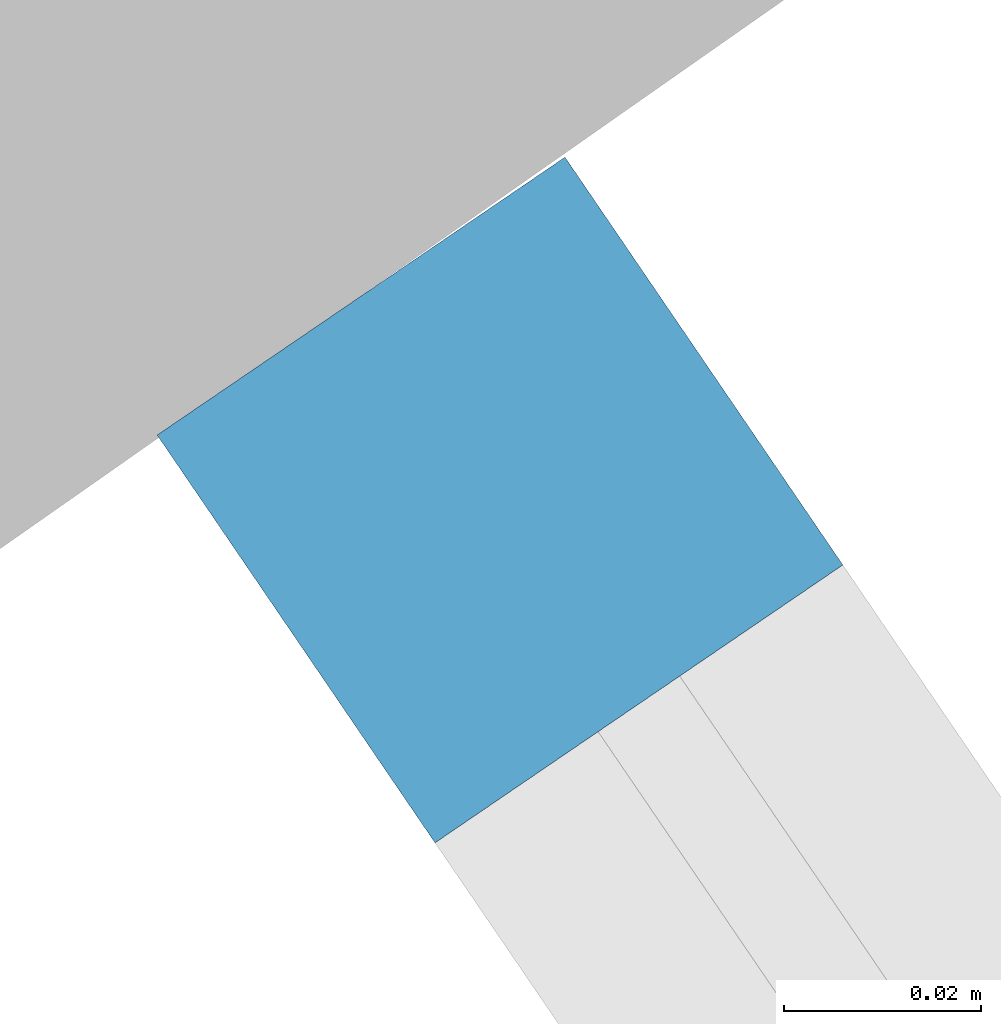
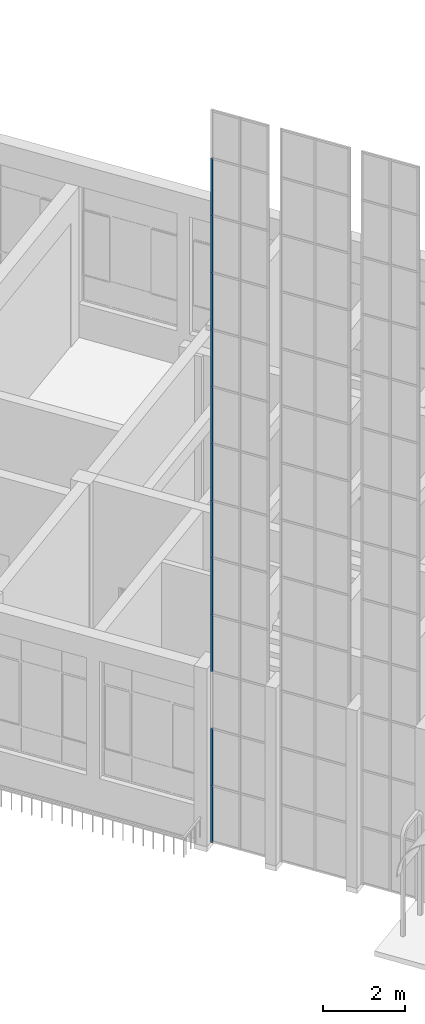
# One storey, part 19 of 157: 11 members, 1 element without a shape of its own.
"""IFC2X3 building model written with IfcOpenShell, lengths in millimetres."""

from ifc_helpers import new_model, entity, si_unit, converted_unit, derived_unit, direction, frame, origin, origin_2d_with_axis, place, context, subcontext, project, spatial, rectangle, extrude, source, transform, mapped, material, type_object, type_shapes, element, aggregate, save


model = new_model("IFC2X3")

# Units and contexts
model_context = context("Model", 3, precision=0.01, world=origin(), true_north=direction((6.123031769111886e-17, 1.0)))
body_context = subcontext(model_context, "Body", "Model", "MODEL_VIEW")
ifc_project = project(units=[si_unit("LENGTHUNIT", "METRE", prefix="MILLI"), si_unit("AREAUNIT", "SQUARE_METRE"), si_unit("VOLUMEUNIT", "CUBIC_METRE"), converted_unit("PLANEANGLEUNIT", "DEGREE", entity("IfcRatioMeasure", 0.017453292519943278), si_unit("PLANEANGLEUNIT", "RADIAN"), dimensions=[0, 0, 0, 0, 0, 0, 0]), si_unit("MASSUNIT", "GRAM", prefix="KILO"), derived_unit("MASSDENSITYUNIT", [(si_unit("MASSUNIT", "GRAM", prefix="KILO"), 1), (si_unit("LENGTHUNIT", "METRE"), -3)]), derived_unit("MOMENTOFINERTIAUNIT", [(si_unit("LENGTHUNIT", "METRE"), 4)]), si_unit("TIMEUNIT", "SECOND"), si_unit("FREQUENCYUNIT", "HERTZ"), si_unit("THERMODYNAMICTEMPERATUREUNIT", "DEGREE_CELSIUS"), derived_unit("THERMALTRANSMITTANCEUNIT", [(si_unit("MASSUNIT", "GRAM", prefix="KILO"), 1), (si_unit("THERMODYNAMICTEMPERATUREUNIT", "KELVIN"), -1), (si_unit("TIMEUNIT", "SECOND"), -3)]), derived_unit("THERMALCONDUCTANCEUNIT", [(si_unit("MASSUNIT", "GRAM", prefix="KILO"), 1), (si_unit("LENGTHUNIT", "METRE"), 1), (si_unit("THERMODYNAMICTEMPERATUREUNIT", "KELVIN"), -1), (si_unit("TIMEUNIT", "SECOND"), -3)]), derived_unit("VOLUMETRICFLOWRATEUNIT", [(si_unit("LENGTHUNIT", "METRE"), 3), (si_unit("TIMEUNIT", "SECOND"), -1)]), derived_unit("MASSFLOWRATEUNIT", [(si_unit("MASSUNIT", "GRAM", prefix="KILO"), 1), (si_unit("TIMEUNIT", "SECOND"), -1)]), derived_unit("ROTATIONALFREQUENCYUNIT", [(si_unit("TIMEUNIT", "SECOND"), -1)]), si_unit("ELECTRICCURRENTUNIT", "AMPERE"), si_unit("ELECTRICVOLTAGEUNIT", "VOLT"), si_unit("POWERUNIT", "WATT"), converted_unit("FORCEUNIT", "KIP", entity("IfcRatioMeasure", 2.088543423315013e-05), si_unit("FORCEUNIT", "NEWTON"), dimensions=[1, 1, -2, 0, 0, 0, 0]), si_unit("ILLUMINANCEUNIT", "LUX"), si_unit("LUMINOUSFLUXUNIT", "LUMEN"), si_unit("LUMINOUSINTENSITYUNIT", "CANDELA"), derived_unit("USERDEFINED", [(si_unit("MASSUNIT", "GRAM", prefix="KILO"), -1), (si_unit("LENGTHUNIT", "METRE"), -2), (si_unit("TIMEUNIT", "SECOND"), 3), (si_unit("LUMINOUSFLUXUNIT", "LUMEN"), 1)]), derived_unit("USERDEFINED", [(si_unit("MASSUNIT", "GRAM", prefix="KILO"), 1), (si_unit("LENGTHUNIT", "METRE"), 3), (si_unit("TIMEUNIT", "SECOND"), -3), (si_unit("ELECTRICCURRENTUNIT", "AMPERE"), -2)]), derived_unit("USERDEFINED", [(si_unit("LENGTHUNIT", "METRE"), 2), (si_unit("TIMEUNIT", "SECOND"), -2)]), derived_unit("SOUNDPOWERUNIT", [(si_unit("MASSUNIT", "GRAM", prefix="KILO"), 1), (si_unit("LENGTHUNIT", "METRE"), 2), (si_unit("TIMEUNIT", "SECOND"), -3)]), derived_unit("SOUNDPRESSUREUNIT", [(si_unit("MASSUNIT", "GRAM", prefix="KILO"), 1), (si_unit("LENGTHUNIT", "METRE"), -1), (si_unit("TIMEUNIT", "SECOND"), -2)]), derived_unit("LINEARVELOCITYUNIT", [(si_unit("LENGTHUNIT", "METRE"), 1), (si_unit("TIMEUNIT", "SECOND"), -1)]), si_unit("PRESSUREUNIT", "PASCAL"), derived_unit("USERDEFINED", [(si_unit("LENGTHUNIT", "METRE"), -2), (si_unit("MASSUNIT", "GRAM", prefix="KILO"), 1), (si_unit("TIMEUNIT", "SECOND"), -2)]), derived_unit("LINEARFORCEUNIT", [(si_unit("MASSUNIT", "GRAM", prefix="KILO"), 1), (si_unit("LENGTHUNIT", "METRE"), 1), (si_unit("TIMEUNIT", "SECOND"), -2), (si_unit("LENGTHUNIT", "METRE"), -1)]), derived_unit("PLANARFORCEUNIT", [(si_unit("MASSUNIT", "GRAM", prefix="KILO"), 1), (si_unit("LENGTHUNIT", "METRE"), 1), (si_unit("TIMEUNIT", "SECOND"), -2), (si_unit("LENGTHUNIT", "METRE"), -2)]), derived_unit("SPECIFICHEATCAPACITYUNIT", [(si_unit("LENGTHUNIT", "METRE"), 2), (si_unit("TIMEUNIT", "SECOND"), -2), (si_unit("THERMODYNAMICTEMPERATUREUNIT", "KELVIN"), -1)]), derived_unit("VAPORPERMEABILITYUNIT", [(si_unit("TIMEUNIT", "SECOND"), 1), (si_unit("LENGTHUNIT", "METRE"), -1)]), derived_unit("DYNAMICVISCOSITYUNIT", [(si_unit("MASSUNIT", "GRAM", prefix="KILO"), 1), (si_unit("LENGTHUNIT", "METRE"), -1), (si_unit("TIMEUNIT", "SECOND"), -1)]), derived_unit("THERMALEXPANSIONCOEFFICIENTUNIT", [(si_unit("THERMODYNAMICTEMPERATUREUNIT", "KELVIN"), -1)])], contexts=[model_context])

# Site, building, storey
site_placement = place(None, frame((0.0, 0.0, 0.0), z_axis=(0.0, 0.0, 1.0), x_axis=(0.8191520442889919, 0.5735764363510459, 0.0)))
site = spatial("IfcSite", under=ifc_project, at=site_placement, Name="Default", CompositionType="ELEMENT")
building_placement = place(site_placement, origin())
building = spatial("IfcBuilding", under=site, at=building_placement, CompositionType="ELEMENT")
storey_placement = place(building_placement, origin())
storey = spatial("IfcBuildingStorey", under=building, at=storey_placement, Name="1.EG +0.00", CompositionType="ELEMENT", Elevation=-4.331468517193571e-12)

# Curtain wall, members
curtain_wall_type = type_object("IfcCurtainWallType", Name="Curtain Wall:Curtain_Wall_CJC", PredefinedType="NOTDEFINED")
curtain_wall_placement = place(storey_placement, origin())
curtain_wall = element("IfcCurtainWall", 1, at=curtain_wall_placement, inside=storey, type_object=curtain_wall_type, Name="Curtain Wall:Curtain_Wall_CJC", ObjectType="Curtain Wall:Curtain_Wall_CJC")
ifc_material = material(Name="Aluminium")
member_type_1 = type_object("IfcMemberType", Name="Rectangular Mullion:5x5", PredefinedType="MULLION", material=ifc_material)
shared_shape_1 = source(origin(), body_context, "Body", "SweptSolid", [
    extrude(rectangle(XDim=50.0, YDim=50.0, at=origin_2d_with_axis()), frame((-25.0, 0.0, -1700.0), z_axis=(0.0, 0.0, 1.0), x_axis=(0.0, -1.0, 0.0)), (0.0, 0.0, 1.0), 1700.0),
])
type_shapes(member_type_1, [shared_shape_1])
member_1_placement = place(curtain_wall_placement, frame((-223050.52008220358, 115521.3589143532, 1700.0), z_axis=(0.0, 0.0, -1.0), x_axis=(0.01272958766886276, 0.999918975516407, 0.0)))
member_1 = element("IfcMember", 2, at=member_1_placement, type_object=member_type_1, material=ifc_material, Name="Rectangular Mullion:5x5", ObjectType="Rectangular Mullion:5x5", context=body_context, shape_type="MappedRepresentation", body=[
    mapped(shared_shape_1, transform((0.0, 0.0, 0.0), scale=1.0)),
])
member_2_placement = place(curtain_wall_placement, frame((-223050.52008220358, 115521.3589143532, 5100.0), z_axis=(0.0, 0.0, -1.0), x_axis=(0.01272958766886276, 0.999918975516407, 0.0)))
member_2 = element("IfcMember", 3, at=member_2_placement, type_object=member_type_1, material=ifc_material, Name="Rectangular Mullion:5x5", ObjectType="Rectangular Mullion:5x5", context=body_context, shape_type="MappedRepresentation", body=[
    mapped(shared_shape_1, transform((0.0, 0.0, 0.0), scale=1.0)),
])
member_3_placement = place(curtain_wall_placement, frame((-223050.52008220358, 115521.3589143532, 6800.0), z_axis=(0.0, 0.0, -1.0), x_axis=(0.01272958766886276, 0.999918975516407, 0.0)))
member_3 = element("IfcMember", 4, at=member_3_placement, type_object=member_type_1, material=ifc_material, Name="Rectangular Mullion:5x5", ObjectType="Rectangular Mullion:5x5", context=body_context, shape_type="MappedRepresentation", body=[
    mapped(shared_shape_1, transform((0.0, 0.0, 0.0), scale=1.0)),
])
member_4_placement = place(curtain_wall_placement, frame((-223050.52008220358, 115521.3589143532, 8500.0), z_axis=(0.0, 0.0, -1.0), x_axis=(0.01272958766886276, 0.999918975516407, 0.0)))
member_4 = element("IfcMember", 5, at=member_4_placement, type_object=member_type_1, material=ifc_material, Name="Rectangular Mullion:5x5", ObjectType="Rectangular Mullion:5x5", context=body_context, shape_type="MappedRepresentation", body=[
    mapped(shared_shape_1, transform((0.0, 0.0, 0.0), scale=1.0)),
])
member_5_placement = place(curtain_wall_placement, frame((-223050.52008220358, 115521.3589143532, 10200.0), z_axis=(0.0, 0.0, -1.0), x_axis=(0.01272958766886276, 0.999918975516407, 0.0)))
member_5 = element("IfcMember", 6, at=member_5_placement, type_object=member_type_1, material=ifc_material, Name="Rectangular Mullion:5x5", ObjectType="Rectangular Mullion:5x5", context=body_context, shape_type="MappedRepresentation", body=[
    mapped(shared_shape_1, transform((0.0, 0.0, 0.0), scale=1.0)),
])
member_6_placement = place(curtain_wall_placement, frame((-223050.52008220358, 115521.3589143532, 11900.0), z_axis=(0.0, 0.0, -1.0), x_axis=(0.01272958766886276, 0.999918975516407, 0.0)))
member_6 = element("IfcMember", 7, at=member_6_placement, type_object=member_type_1, material=ifc_material, Name="Rectangular Mullion:5x5", ObjectType="Rectangular Mullion:5x5", context=body_context, shape_type="MappedRepresentation", body=[
    mapped(shared_shape_1, transform((0.0, 0.0, 0.0), scale=1.0)),
])
member_7_placement = place(curtain_wall_placement, frame((-223050.52008220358, 115521.3589143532, 13600.0), z_axis=(0.0, 0.0, -1.0), x_axis=(0.01272958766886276, 0.999918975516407, 0.0)))
member_7 = element("IfcMember", 8, at=member_7_placement, type_object=member_type_1, material=ifc_material, Name="Rectangular Mullion:5x5", ObjectType="Rectangular Mullion:5x5", context=body_context, shape_type="MappedRepresentation", body=[
    mapped(shared_shape_1, transform((0.0, 0.0, 0.0), scale=1.0)),
])
member_8_placement = place(curtain_wall_placement, frame((-223050.52008220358, 115521.3589143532, 15300.0), z_axis=(0.0, 0.0, -1.0), x_axis=(0.01272958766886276, 0.999918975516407, 0.0)))
member_8 = element("IfcMember", 9, at=member_8_placement, type_object=member_type_1, material=ifc_material, Name="Rectangular Mullion:5x5", ObjectType="Rectangular Mullion:5x5", context=body_context, shape_type="MappedRepresentation", body=[
    mapped(shared_shape_1, transform((0.0, 0.0, 0.0), scale=1.0)),
])
member_9_placement = place(curtain_wall_placement, frame((-223050.52008220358, 115521.3589143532, 17000.0), z_axis=(0.0, 0.0, -1.0), x_axis=(0.01272958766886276, 0.999918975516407, 0.0)))
member_9 = element("IfcMember", 10, at=member_9_placement, type_object=member_type_1, material=ifc_material, Name="Rectangular Mullion:5x5", ObjectType="Rectangular Mullion:5x5", context=body_context, shape_type="MappedRepresentation", body=[
    mapped(shared_shape_1, transform((0.0, 0.0, 0.0), scale=1.0)),
])
member_10_placement = place(curtain_wall_placement, frame((-223050.52008220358, 115521.3589143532, 18700.0), z_axis=(0.0, 0.0, -1.0), x_axis=(0.01272958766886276, 0.999918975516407, 0.0)))
member_10 = element("IfcMember", 11, at=member_10_placement, type_object=member_type_1, material=ifc_material, Name="Rectangular Mullion:5x5", ObjectType="Rectangular Mullion:5x5", context=body_context, shape_type="MappedRepresentation", body=[
    mapped(shared_shape_1, transform((0.0, 0.0, 0.0), scale=1.0)),
])
member_type_2 = type_object("IfcMemberType", Name="Rectangular Mullion:5x5", PredefinedType="MULLION", material=ifc_material)
shared_shape_2 = source(origin(), body_context, "Body", "SweptSolid", [
    extrude(rectangle(XDim=50.0, YDim=50.0, at=origin_2d_with_axis()), frame((-25.0, 0.0, -1700.0), z_axis=(0.0, 0.0, 1.0), x_axis=(0.0, -1.0, 0.0)), (0.0, 0.0, 1.0), 1700.0),
])
type_shapes(member_type_2, [shared_shape_2])
member_11_placement = place(curtain_wall_placement, frame((-223050.52008220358, 115521.3589143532, 0.0), z_axis=(0.0, 0.0, -1.0), x_axis=(0.01272958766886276, 0.999918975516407, 0.0)))
member_11 = element("IfcMember", 12, at=member_11_placement, type_object=member_type_2, material=ifc_material, Name="Rectangular Mullion:5x5", ObjectType="Rectangular Mullion:5x5", context=body_context, shape_type="MappedRepresentation", body=[
    mapped(shared_shape_2, transform((0.0, 0.0, 0.0), scale=1.0)),
])
aggregate(curtain_wall, [member_1, member_11, member_2, member_3, member_4, member_5, member_6, member_7, member_8, member_9, member_10])

save(model, "model.ifc")
